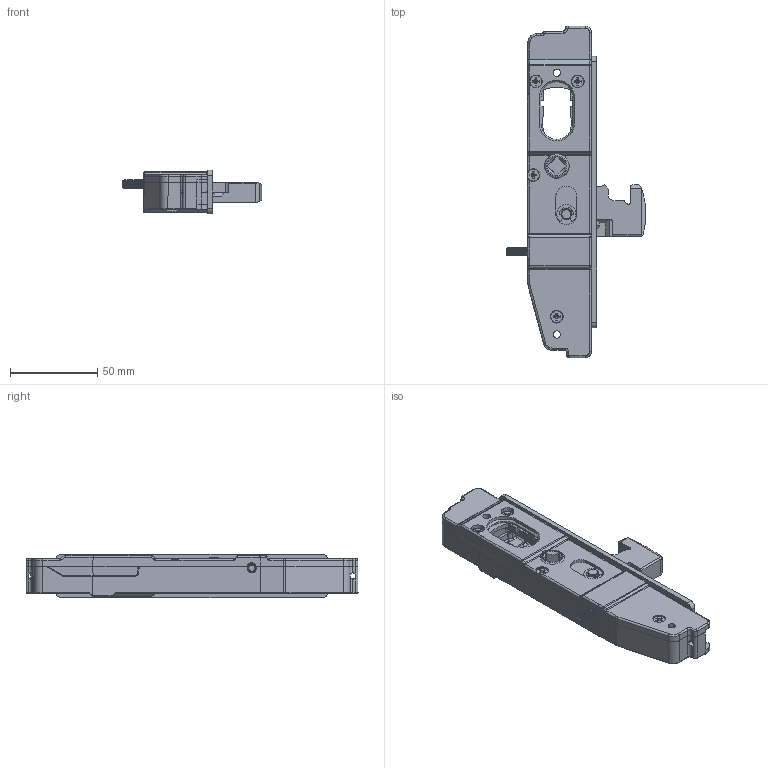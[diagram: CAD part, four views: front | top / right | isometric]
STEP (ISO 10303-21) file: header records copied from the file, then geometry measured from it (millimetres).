
FILE_DESCRIPTION((''),'2;1');
FILE_NAME('3541-5004_ASM','2015-04-24T',('pwright'),('Lockwood Security Products Pty. Ltd.'),'PRO/ENGINEER BY PARAMETRIC TECHNOLOGY CORPORATION, 2005310','PRO/ENGINEER BY PARAMETRIC TECHNOLOGY CORPORATION, 2005310','');
FILE_SCHEMA(('CONFIG_CONTROL_DESIGN'));
Products named in the file (11): 3540-13; 3540-29; 590-825; 3541-11; MN505-A; MS805-20A; ZT3540-14; 590-822; KA806-13-1-2; 3540-174; 3541-5004_ASM
Assembly tree (16 placements, depth 2):
  3541-5004_ASM
    3540-13
    3540-29
    590-825
    3541-11
    MN505-A
    MS805-20A
    ZT3540-14
    590-822
    KA806-13-1-2  x7
    3540-174
Bounding box: 79.87 x 190.26 x 25.21 mm (x, y, z)
Volume: 91727.3 mm3; surface area: 61650.8 mm2
Topology: 16 solids, 26 shells, 3684 faces, 10210 edges, 6675 vertices
Faces by surface type: plane 2421, cylinder 504, cone 379, bspline 170, extrusion 161, sphere 31, torus 18
Entity records: 132668 total; most frequent: CARTESIAN_POINT 48423, ORIENTED_EDGE 18582, DIRECTION 15466, EDGE_CURVE 9309, VECTOR 7234, LINE 7073, VERTEX_POINT 6101, AXIS2_PLACEMENT_3D 4116
